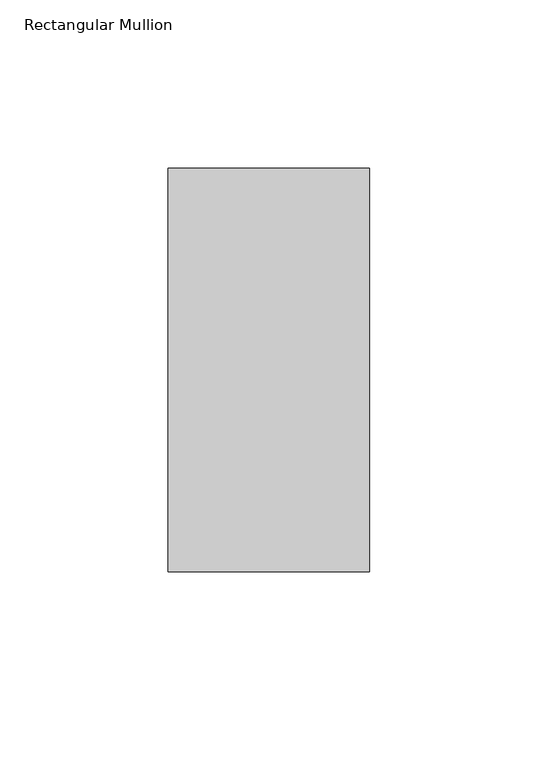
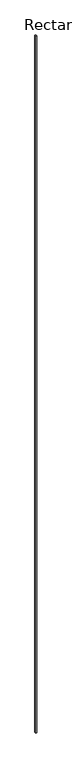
"""IFC4 building model written with IfcOpenShell, lengths in millimetres: member geometry, Rectangular Mullion : Terça."""

import ifcopenshell
import ifcopenshell.guid

model = None  # the IFC model being written
_history = None  # IfcOwnerHistory: only IFC2X3 demands one
_inside = {}  # id of a spatial element -> (the spatial element, [elements in it])
_under = {}  # id of a project, library or spatial element -> (it, [spatial elements below it])
_declared = {}  # id of a project -> (the project, [libraries it declares])
_typed = {}  # id of a type object -> (the type object, [elements of that type])
_made_of = {}  # id of a material, layer set ... -> (it, [elements and type objects made of it])


def new_model(schema):
    """Start an empty IFC model of exactly this schema.

    Asked for "IFC4X3", IfcOpenShell would pick the latest addendum, in which some entities
    have other attributes; the version numbers below select the first issue.
    IFC2X3 requires an IfcOwnerHistory on every rooted entity: one is made here for all.
    """
    global model, _history
    if schema == "IFC4X3":
        model = ifcopenshell.file(schema_version=(4, 3, 0, 0))
    else:
        model = ifcopenshell.file(schema=schema)
    _inside.clear()
    _under.clear()
    _declared.clear()
    _typed.clear()
    _made_of.clear()
    _history = None
    if model.schema == "IFC2X3":
        org = make("IfcOrganization", Name="unknown")
        user = make(
            "IfcPersonAndOrganization",
            ThePerson=make("IfcPerson", FamilyName="unknown"),
            TheOrganization=org,
        )
        app = make(
            "IfcApplication",
            ApplicationDeveloper=org,
            Version="unknown",
            ApplicationFullName="unknown",
            ApplicationIdentifier="unknown",
        )
        _history = make(
            "IfcOwnerHistory",
            OwningUser=user,
            OwningApplication=app,
            ChangeAction="ADDED",
            CreationDate=0,
        )
    return model


def make(cls, **values):
    """One entity of the class cls with the attributes given. An attribute that is None is left unset."""
    return model.create_entity(
        cls, **{name: value for name, value in values.items() if value is not None}
    )


def rooted(cls, **values):
    """An entity with a GlobalId (a new one), such as an element, a storey or a relation."""
    return make(cls, GlobalId=ifcopenshell.guid.new(), OwnerHistory=_history, **values)


def si_unit(unit_type, name, prefix=None):
    """IfcSIUnit, for example si_unit("LENGTHUNIT", "METRE", prefix="MILLI")."""
    return make("IfcSIUnit", UnitType=unit_type, Prefix=prefix, Name=name)


def assignment(units):
    """IfcUnitAssignment: the units of a project."""
    return None if units is None else make("IfcUnitAssignment", Units=units)


def point(xyz):
    """IfcCartesianPoint."""
    return None if xyz is None else make("IfcCartesianPoint", Coordinates=xyz)


def direction(xyz):
    """IfcDirection."""
    return None if xyz is None else make("IfcDirection", DirectionRatios=xyz)


def frame(location, z_axis=None, x_axis=None):
    """IfcAxis2Placement3D, a coordinate frame: its origin and axes. An axis left out is left unset."""
    return make(
        "IfcAxis2Placement3D",
        Location=point(location),
        Axis=direction(z_axis),
        RefDirection=direction(x_axis),
    )


def origin():
    """The frame at (0, 0, 0) with its axes left unset."""
    return frame((0.0, 0.0, 0.0))


def place(relative_to, where):
    """IfcLocalPlacement: puts the frame where relative to a parent placement (None: the world)."""
    return make(
        "IfcLocalPlacement", PlacementRelTo=relative_to, RelativePlacement=where
    )


def context(
    kind, dimensions, precision=None, world=None, true_north=None, identifier=None
):
    """IfcGeometricRepresentationContext, for example the 3D "Model" context."""
    return make(
        "IfcGeometricRepresentationContext",
        ContextIdentifier=identifier,
        ContextType=kind,
        CoordinateSpaceDimension=dimensions,
        Precision=precision,
        WorldCoordinateSystem=world,
        TrueNorth=true_north,
    )


def project(units=None, contexts=None):
    """IfcProject with its units and contexts."""
    return rooted(
        "IfcProject",
        Name="project",
        RepresentationContexts=contexts,
        UnitsInContext=assignment(units),
    )


def spatial(cls, under=None, at=None, **own):
    """A site, building, storey or space (cls), placed at a placement, below another one or the project."""
    s = rooted(cls, ObjectPlacement=at, **own)
    if under is not None:
        _under.setdefault(under.id(), (under, []))[1].append(s)
    return s


def polyline(points):
    """IfcPolyline through the points."""
    return make("IfcPolyline", Points=[point(p) for p in points])


def outline(outer, holes=None, kind="AREA"):
    """IfcArbitraryClosedProfileDef: a profile drawn as a closed curve; with holes, ...WithVoids."""
    if holes is None:
        return make("IfcArbitraryClosedProfileDef", ProfileType=kind, OuterCurve=outer)
    return make(
        "IfcArbitraryProfileDefWithVoids",
        ProfileType=kind,
        OuterCurve=outer,
        InnerCurves=holes,
    )


def extrude(swept, where, along, depth):
    """IfcExtrudedAreaSolid: the profile swept, set in the frame where, extruded along a direction by depth."""
    return make(
        "IfcExtrudedAreaSolid",
        SweptArea=swept,
        Position=where,
        ExtrudedDirection=direction(along),
        Depth=depth,
    )


def shape(context_of_items, identifier, shape_type, items):
    """IfcShapeRepresentation: the items that make up one representation, for example the "Body"."""
    return make(
        "IfcShapeRepresentation",
        ContextOfItems=context_of_items,
        RepresentationIdentifier=identifier,
        RepresentationType=shape_type,
        Items=items,
    )


def source(mapping_origin, context_of_items, identifier, shape_type, items):
    """IfcRepresentationMap: a shape defined once, which mapped items show again and again."""
    return make(
        "IfcRepresentationMap",
        MappingOrigin=mapping_origin,
        MappedRepresentation=shape(context_of_items, identifier, shape_type, items),
    )


def transform(
    local_origin,
    x_axis=None,
    y_axis=None,
    z_axis=None,
    scale=None,
    scale2=None,
    scale3=None,
    uniform=True,
):
    """IfcCartesianTransformationOperator3D, or its non-uniform kind. x_axis, y_axis, z_axis: its Axis1, 2, 3."""
    if uniform:
        return make(
            "IfcCartesianTransformationOperator3D",
            Axis1=direction(x_axis),
            Axis2=direction(y_axis),
            LocalOrigin=point(local_origin),
            Scale=scale,
            Axis3=direction(z_axis),
        )
    return make(
        "IfcCartesianTransformationOperator3DnonUniform",
        Axis1=direction(x_axis),
        Axis2=direction(y_axis),
        LocalOrigin=point(local_origin),
        Scale=scale,
        Axis3=direction(z_axis),
        Scale2=scale2,
        Scale3=scale3,
    )


def mapped(mapping_source, mapping_target):
    """IfcMappedItem: shows the shape of a source again, moved by a transform."""
    return make(
        "IfcMappedItem", MappingSource=mapping_source, MappingTarget=mapping_target
    )


def made_of(thing, what):
    """Note that an element or type object is made of a material, layer set ...; save() writes the relation."""
    if what is not None:
        _made_of.setdefault(what.id(), (what, []))[1].append(thing)
    return thing


def element(
    cls,
    number,
    at=None,
    inside=None,
    cuts=None,
    type_object=None,
    material=None,
    context=None,
    identifier="Body",
    shape_type=None,
    held_by="IfcProductDefinitionShape",
    body=None,
    shapes=None,
    **own,
):
    """One element of the class cls, such as IfcWall. Its Tag is "e" and its number.

    at: its placement. inside: the storey or other place that contains it. cuts: it is an
    opening in that element (IfcRelVoidsElement). A single representation is given by context,
    identifier, shape_type and body (its items); several are given by shapes. held_by: the class
    of the entity that holds the representations. save() writes the other relations.
    """
    e = rooted(cls, Tag="e%d" % number, ObjectPlacement=at, **own)
    if body is not None:
        shapes = [shape(context, identifier, shape_type, body)]
    if shapes is not None:
        e.Representation = make(held_by, Representations=shapes)
    if inside is not None:
        _inside.setdefault(inside.id(), (inside, []))[1].append(e)
    if cuts is not None:
        rooted(
            "IfcRelVoidsElement", RelatingBuildingElement=cuts, RelatedOpeningElement=e
        )
    if type_object is not None:
        _typed.setdefault(type_object.id(), (type_object, []))[1].append(e)
    return made_of(e, material)


def aggregate(whole, parts):
    """IfcRelAggregates: a whole, such as a stair, and the parts it consists of."""
    return rooted("IfcRelAggregates", RelatingObject=whole, RelatedObjects=parts)


def save(model, path):
    """Write the relations noted so far, then the file.

    IfcRelAggregates (storeys below a building ...), IfcRelContainedInSpatialStructure (elements
    in a storey), IfcRelDefinesByType, IfcRelAssociatesMaterial and IfcRelDeclares: one each for
    every whole, place, type object, material and project.
    """
    for whole, parts in _under.values():
        aggregate(whole, parts)
    for where, things in _inside.values():
        rooted(
            "IfcRelContainedInSpatialStructure",
            RelatedElements=things,
            RelatingStructure=where,
        )
    for kind, things in _typed.values():
        rooted("IfcRelDefinesByType", RelatedObjects=things, RelatingType=kind)
    for what, things in _made_of.values():
        rooted("IfcRelAssociatesMaterial", RelatedObjects=things, RelatingMaterial=what)
    for by, libraries in _declared.values():
        rooted("IfcRelDeclares", RelatingContext=by, RelatedDefinitions=libraries)
    model.write(path)


def rectangular_mullion_8b410596(model_context):
    return source(origin(), model_context, "Body", "SweptSolid", [
        extrude(outline(polyline([(0.0, -120.0), (-60.0, -120.0), (-60.0, 0.0), (0.0, 0.0), (0.0, -120.0)])), frame((0.0, 0.0, -47920.4270994), z_axis=(0.0, 0.0, 1.0), x_axis=(1.0, 0.0, 0.0)), (0.0, 0.0, 1.0), 47920.4270994),
    ])


if __name__ == "__main__":
    model = new_model("IFC4")
    model_context = context("Model", 3, world=origin())
    ifc_project = project(units=[si_unit("LENGTHUNIT", "METRE", prefix="MILLI")], contexts=[model_context])
    site = spatial("IfcSite", under=ifc_project)
    building = spatial("IfcBuilding", under=site)
    placement = place(None, origin())
    rectangular_mullion_shape = rectangular_mullion_8b410596(model_context)
    element("IfcMember", 1, ObjectType="Rectangular Mullion : Terça", at=placement, inside=building, context=model_context, shape_type="MappedRepresentation", body=[
        mapped(rectangular_mullion_shape, transform((0.0, 0.0, 0.0), x_axis=(1.0, 0.0, 0.0), y_axis=(0.0, 1.0, 0.0), z_axis=(0.0, 0.0, 1.0))),
    ])
    save(model, "model.ifc")
